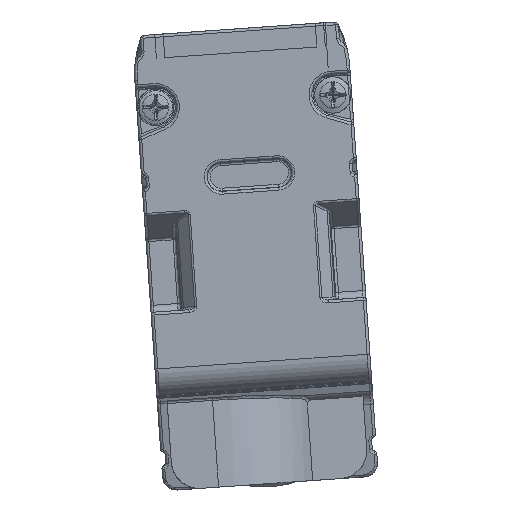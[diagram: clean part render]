
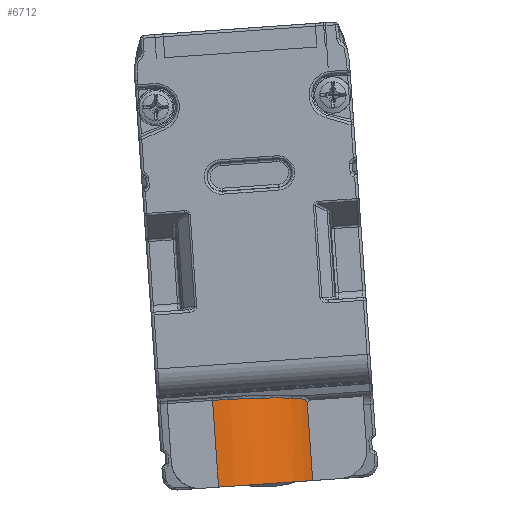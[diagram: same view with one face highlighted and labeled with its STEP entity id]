
A CAD part, front view. The second image highlights one B-rep face of the part: STEP entity #6712.
In plain terms, the highlighted cylindrical face has radius 7.5 mm (diameter 15 mm), a partial arc.
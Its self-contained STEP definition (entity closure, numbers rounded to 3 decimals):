
#151=ELLIPSE('',#23242,7.53,7.5);
#504=CYLINDRICAL_SURFACE('',#23244,7.5);
#1545=LINE('',#38676,#3170);
#1546=LINE('',#38689,#3171);
#3170=VECTOR('',#27785,1.);
#3171=VECTOR('',#27788,1.);
#5084=CIRCLE('',#23243,7.5);
#6712=ADVANCED_FACE('',(#8109),#504,.T.);
#8109=FACE_OUTER_BOUND('',#9203,.T.);
#9203=EDGE_LOOP('',(#12653,#12654,#12655,#12656,#12657));
#12653=ORIENTED_EDGE('',*,*,#19792,.T.);
#12654=ORIENTED_EDGE('',*,*,#19793,.T.);
#12655=ORIENTED_EDGE('',*,*,#19794,.T.);
#12656=ORIENTED_EDGE('',*,*,#19795,.T.);
#12657=ORIENTED_EDGE('',*,*,#19796,.F.);
#16832=VERTEX_POINT('',#38677);
#16833=VERTEX_POINT('',#38678);
#16834=VERTEX_POINT('',#38686);
#16835=VERTEX_POINT('',#38688);
#16836=VERTEX_POINT('',#38690);
#19792=EDGE_CURVE('',#16832,#16833,#1545,.T.);
#19793=EDGE_CURVE('',#16833,#16834,#21698,.T.);
#19794=EDGE_CURVE('',#16834,#16835,#151,.T.);
#19795=EDGE_CURVE('',#16835,#16836,#1546,.T.);
#19796=EDGE_CURVE('',#16832,#16836,#5084,.T.);
#21698=B_SPLINE_CURVE_WITH_KNOTS('',3,(#38679,#38680,#38681,#38682,#38683,
#38684,#38685),.UNSPECIFIED.,.F.,.F.,(4,3,4),(0.,0.485,1.),.UNSPECIFIED.);
#23242=AXIS2_PLACEMENT_3D('',#38687,#27786,#27787);
#23243=AXIS2_PLACEMENT_3D('',#38691,#27789,#27790);
#23244=AXIS2_PLACEMENT_3D('',#38692,#27791,#27792);
#27785=DIRECTION('',(-0.07,0.,0.998));
#27786=DIRECTION('',(0.069,-0.089,-0.994));
#27787=DIRECTION('',(0.006,0.996,-0.089));
#27788=DIRECTION('',(0.07,0.,-0.998));
#27789=DIRECTION('',(0.07,0.,-0.998));
#27790=DIRECTION('',(0.998,0.,0.07));
#27791=DIRECTION('',(0.07,0.,-0.998));
#27792=DIRECTION('',(0.,-1.,0.));
#38676=CARTESIAN_POINT('',(-40.701,-290.597,14.888));
#38677=CARTESIAN_POINT('',(-40.701,-290.597,14.888));
#38678=CARTESIAN_POINT('',(-41.088,-290.597,20.435));
#38679=CARTESIAN_POINT('',(-41.088,-290.597,20.435));
#38680=CARTESIAN_POINT('',(-41.139,-290.686,20.528));
#38681=CARTESIAN_POINT('',(-41.198,-290.793,20.603));
#38682=CARTESIAN_POINT('',(-41.263,-290.905,20.654));
#38683=CARTESIAN_POINT('',(-41.332,-291.024,20.708));
#38684=CARTESIAN_POINT('',(-41.408,-291.152,20.738));
#38685=CARTESIAN_POINT('',(-41.487,-291.278,20.743));
#38686=CARTESIAN_POINT('',(-41.487,-291.278,20.743));
#38687=CARTESIAN_POINT('',(-47.816,-287.318,19.944));
#38688=CARTESIAN_POINT('',(-47.863,-294.818,20.616));
#38689=CARTESIAN_POINT('',(-47.667,-294.818,17.815));
#38690=CARTESIAN_POINT('',(-47.43,-294.818,14.418));
#38691=CARTESIAN_POINT('',(-47.43,-287.318,14.418));
#38692=CARTESIAN_POINT('',(-52.434,-287.318,85.982));
